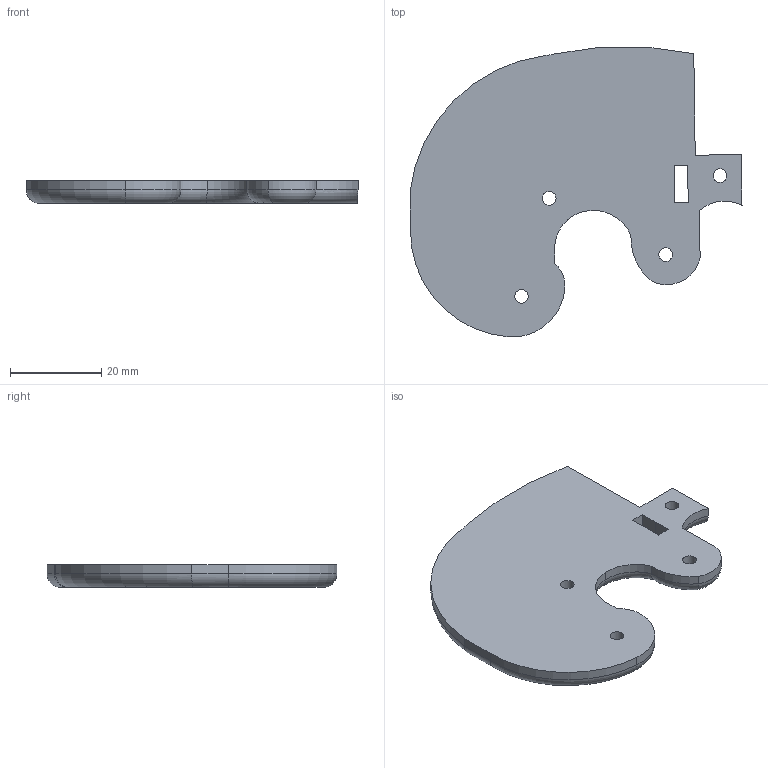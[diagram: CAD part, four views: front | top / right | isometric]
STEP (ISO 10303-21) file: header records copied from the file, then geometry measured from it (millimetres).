
FILE_DESCRIPTION((''),'2;1');
FILE_NAME('C:\MRFR\SHOCK\Hexen\STP\frame_R.stp','2013-08-15T20:11:37',('mrfr'),(''),'Autodesk Inventor 2013','Autodesk Inventor 2013','');
FILE_SCHEMA(('AUTOMOTIVE_DESIGN { 1 0 10303 214 1 1 1 1 }'));
Length unit declared in the file: millimetre
Products named in the file (1): frame_R
Bounding box: 72.68 x 63.45 x 5 mm (x, y, z)
Volume: 14208.7 mm3; surface area: 7605.4 mm2
Topology: 1 solids, 1 shells, 204 faces, 630 edges, 511 vertices
Faces by surface type: plane 146, bspline 26, cylinder 21, torus 11
Full cylindrical faces by diameter (mm): 3 x4
Entity records: 7503 total; most frequent: CARTESIAN_POINT 1759, ORIENTED_EDGE 1102, DIRECTION 1004, EDGE_CURVE 551, VECTOR 478, LINE 478, VERTEX_POINT 365, AXIS2_PLACEMENT_3D 263
